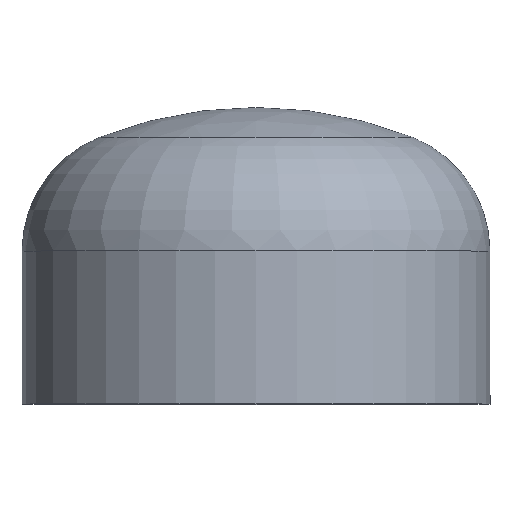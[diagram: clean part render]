
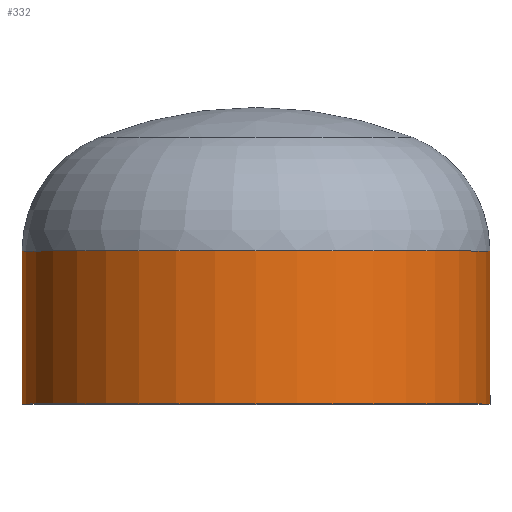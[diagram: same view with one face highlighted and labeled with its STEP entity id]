
A CAD part, top view. The second image highlights one B-rep face of the part: STEP entity #332.
In plain terms, the highlighted cylindrical face has radius 84.15 mm (diameter 168.3 mm), a partial arc.
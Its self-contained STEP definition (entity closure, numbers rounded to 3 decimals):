
#8 = AXIS2_PLACEMENT_3D ( 'NONE', #405, #282, #52 ) ;
#18 = ORIENTED_EDGE ( 'NONE', *, *, #371, .T. ) ;
#24 = CIRCLE ( 'NONE', #216, 84.15 ) ;
#32 = VERTEX_POINT ( 'NONE', #183 ) ;
#33 = ORIENTED_EDGE ( 'NONE', *, *, #393, .T. ) ;
#42 = DIRECTION ( 'NONE',  ( 0., -1., 0. ) ) ;
#49 = ORIENTED_EDGE ( 'NONE', *, *, #358, .F. ) ;
#52 = DIRECTION ( 'NONE',  ( 1., 0., 0. ) ) ;
#56 = LINE ( 'NONE', #227, #313 ) ;
#75 = AXIS2_PLACEMENT_3D ( 'NONE', #384, #42, #121 ) ;
#79 = LINE ( 'NONE', #201, #378 ) ;
#92 = VERTEX_POINT ( 'NONE', #232 ) ;
#97 = VERTEX_POINT ( 'NONE', #226 ) ;
#100 = FACE_OUTER_BOUND ( 'NONE', #118, .T. ) ;
#118 = EDGE_LOOP ( 'NONE', ( #33, #18, #130, #49 ) ) ;
#121 = DIRECTION ( 'NONE',  ( 1., 0., 0. ) ) ;
#130 = ORIENTED_EDGE ( 'NONE', *, *, #361, .F. ) ;
#183 = CARTESIAN_POINT ( 'NONE',  ( 84.15, 0., 0. ) ) ;
#201 = CARTESIAN_POINT ( 'NONE',  ( 84.15, 0., 0. ) ) ;
#206 = CIRCLE ( 'NONE', #8, 84.15 ) ;
#216 = AXIS2_PLACEMENT_3D ( 'NONE', #258, #406, #285 ) ;
#226 = CARTESIAN_POINT ( 'NONE',  ( 84.15, 55., 0. ) ) ;
#227 = CARTESIAN_POINT ( 'NONE',  ( -84.15, 0., 0. ) ) ;
#232 = CARTESIAN_POINT ( 'NONE',  ( -84.15, 0., 0. ) ) ;
#255 = DIRECTION ( 'NONE',  ( 0., -1., 0. ) ) ;
#258 = CARTESIAN_POINT ( 'NONE',  ( 0., 55., 0. ) ) ;
#280 = VERTEX_POINT ( 'NONE', #301 ) ;
#282 = DIRECTION ( 'NONE',  ( 0., -1., 0. ) ) ;
#285 = DIRECTION ( 'NONE',  ( 1., 0., 0. ) ) ;
#301 = CARTESIAN_POINT ( 'NONE',  ( -84.15, 55., 0. ) ) ;
#313 = VECTOR ( 'NONE', #255, 1000. ) ;
#332 = ADVANCED_FACE ( 'NONE', ( #100 ), #387, .T. ) ;
#358 = EDGE_CURVE ( 'NONE', #97, #32, #79, .T. ) ;
#360 = DIRECTION ( 'NONE',  ( 0., -1., 0. ) ) ;
#361 = EDGE_CURVE ( 'NONE', #32, #92, #206, .T. ) ;
#371 = EDGE_CURVE ( 'NONE', #280, #92, #56, .T. ) ;
#378 = VECTOR ( 'NONE', #360, 1000. ) ;
#384 = CARTESIAN_POINT ( 'NONE',  ( 0., 0., 0. ) ) ;
#387 = CYLINDRICAL_SURFACE ( 'NONE', #75, 84.15 ) ;
#393 = EDGE_CURVE ( 'NONE', #97, #280, #24, .T. ) ;
#405 = CARTESIAN_POINT ( 'NONE',  ( 0., 0., 0. ) ) ;
#406 = DIRECTION ( 'NONE',  ( 0., -1., 0. ) ) ;
